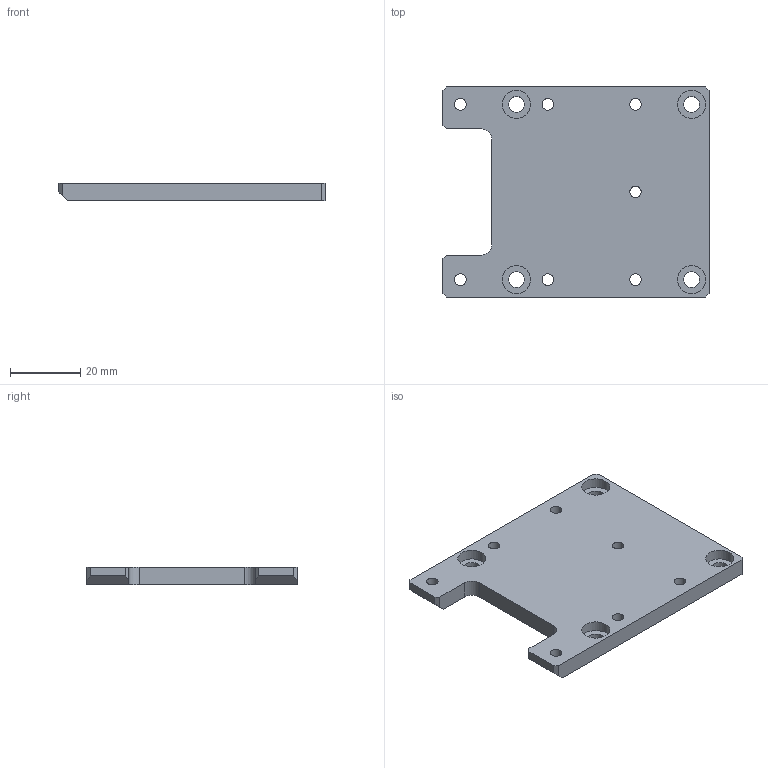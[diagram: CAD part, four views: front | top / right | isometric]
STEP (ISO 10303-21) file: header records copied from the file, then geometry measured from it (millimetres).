
FILE_DESCRIPTION( ( 'STEP AP203' ), '1' );
FILE_NAME( 'C:/3D-Trans/3D_A49-17+071218.stp', '2007-12-18T05:03:25', ( ' ' ), ( ' ' ), 'XStep 1.0', ' ', ' ' );
FILE_SCHEMA( ( 'CONFIG_CONTROL_DESIGN' ) );
Length unit declared in the file: millimetre
Products named in the file (1): 1
Bounding box: 76 x 60 x 5 mm (x, y, z)
Volume: 19183.9 mm3; surface area: 10072.1 mm2
Topology: 1 solids, 1 shells, 39 faces, 103 edges, 70 vertices
Faces by surface type: plane 22, cylinder 17
Full cylindrical faces by diameter (mm): 3.3 x7, 4.5 x4, 8 x4
Entity records: 1200 total; most frequent: DIRECTION 198, CARTESIAN_POINT 190, ORIENTED_EDGE 168, EDGE_CURVE 84, EDGE_LOOP 80, AXIS2_PLACEMENT_3D 74, VERTEX_POINT 66, FACE_OUTER_BOUND 54
